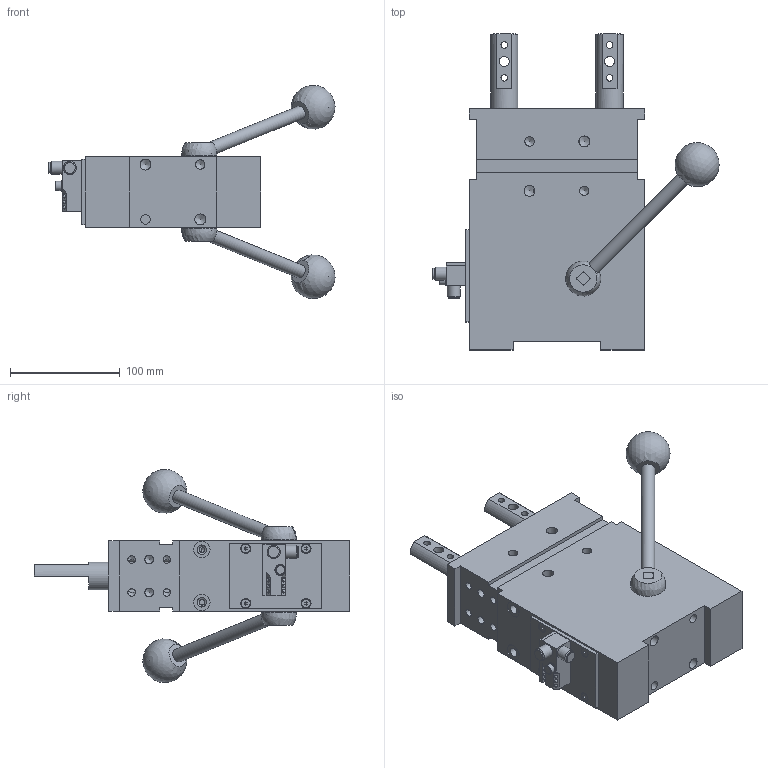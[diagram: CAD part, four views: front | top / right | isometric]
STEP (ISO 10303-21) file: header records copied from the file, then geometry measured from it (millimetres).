
FILE_DESCRIPTION(/* description */ (''),/* implementation_level */ '2;1');
FILE_NAME(/* name */ 'S:\Tom\INVENTOR FILES\INVENTOR WORKSPACE\AUTOMOTIVE\LOCATORS\XLP 63 -2\tunkers SZV\Tunkers models 091116\SZVD_50_1_Z_A13_T12_TUENKERS\SATS\XLP50-2-3-ML-40-S22.stp',/* time_stamp */ '2016-11-09T15:58:01+00:00',/* author */ ('carl'),/* organization */ (''),/* preprocessor_version */ 'ST-DEVELOPER v16.1',/* originating_system */ 'Autodesk Inventor 2016',/* authorisation */ '');
FILE_SCHEMA (('AUTOMOTIVE_DESIGN { 1 0 10303 214 3 1 1 }'));
Length unit declared in the file: millimetre
Products named in the file (1): XLP50-2-3-ML-40-S22
Bounding box: 260.8 x 288 x 194.24 mm (x, y, z)
Volume: 2100286.5 mm3; surface area: 230662.1 mm2
Topology: 1 solids, 26 shells, 492 faces, 1228 edges, 797 vertices
Faces by surface type: plane 242, cylinder 135, cone 97, sphere 10, torus 8
Full cylindrical faces by diameter (mm): 3.3 x8, 4 x4, 4.2 x1, 4.5 x4, 5 x10, 6 x18, 6.5 x6, 6.8 x8, 8 x8, 8.5 x9, 8.56 x2, 9 x2, 10 x17, 11 x6, 12 x6, 15 x2, 25 x4, 30 x1, 32 x4, 35 x2, 40 x1, 46.2 x1, 50 x2, 55 x1
Entity records: 12666 total; most frequent: CARTESIAN_POINT 2686, DIRECTION 2085, ORIENTED_EDGE 1692, EDGE_CURVE 846, AXIS2_PLACEMENT_3D 843, EDGE_LOOP 813, VERTEX_POINT 641, ADVANCED_FACE 492
